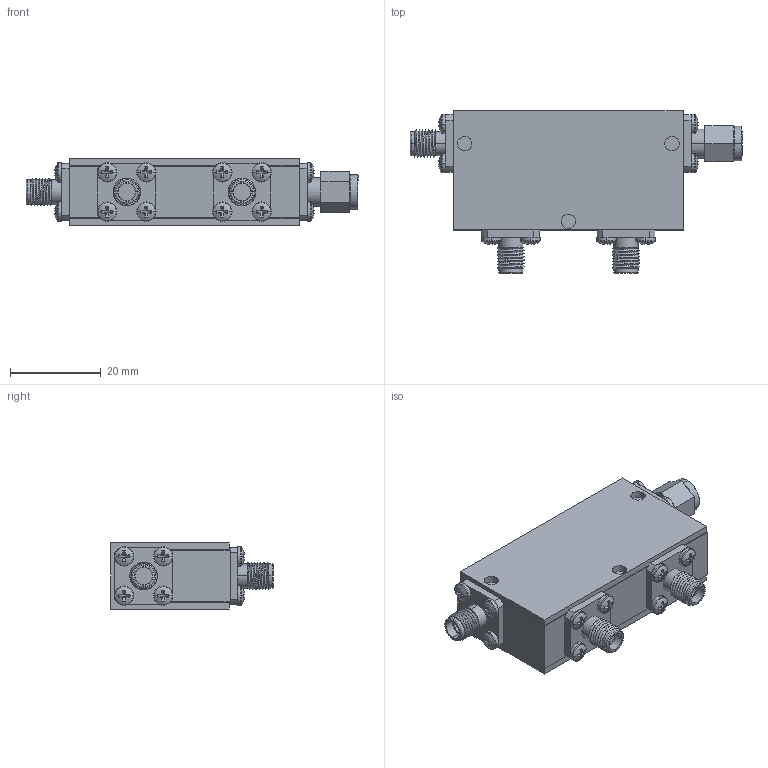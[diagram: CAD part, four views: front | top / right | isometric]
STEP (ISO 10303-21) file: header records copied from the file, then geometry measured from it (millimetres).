
FILE_DESCRIPTION (( 'STEP AP214' ), '1' );
FILE_NAME ('Package 14-2 Circ FMFF - Cryo Shielded.STEP', '2023-12-20T00:10:08', ( '' ), ( '' ), 'SwSTEP 2.0', 'SolidWorks 2016', '' );
FILE_SCHEMA (( 'AUTOMOTIVE_DESIGN' ));
Length unit declared in the file: inch
Products named in the file (6): Delta SMA-Male; Delta SMA-Female 0.500 flange Threaded; Package 14-2 Circ FMFF - Cryo Shielded; pan cross head_ai_CR-PHMS 0.086-56x0.125x0.125-N; WR051; Package Size 14
Assembly tree (22 placements, depth 2):
  Package 14-2 Circ FMFF - Cryo Shielded
    Delta SMA-Female 0.500 flange Threaded  x3
    pan cross head_ai_CR-PHMS 0.086-56x0.125x0.125-N  x16
    Package Size 14
    Delta SMA-Male
    WR051
Bounding box: 73.2 x 35.81 x 14.58 mm (x, y, z)
Volume: 20983.3 mm3; surface area: 15082.2 mm2
Topology: 22 solids, 22 shells, 576 faces, 1319 edges, 815 vertices
Faces by surface type: plane 313, cylinder 178, torus 44, sphere 32, bspline 9
Entity records: 5809 total; most frequent: CARTESIAN_POINT 1539, DIRECTION 915, ORIENTED_EDGE 758, EDGE_CURVE 379, AXIS2_PLACEMENT_3D 369, VERTEX_POINT 243, EDGE_LOOP 208, CIRCLE 194
